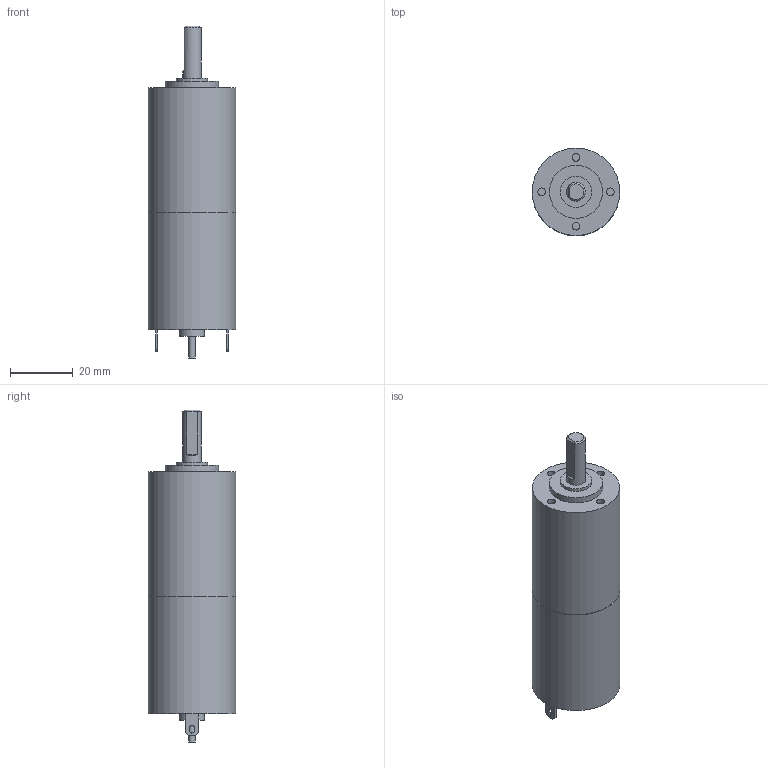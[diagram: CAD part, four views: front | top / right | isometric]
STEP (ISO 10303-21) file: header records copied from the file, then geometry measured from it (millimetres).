
FILE_DESCRIPTION(/* description */ ('Alibre Inc.'),/* implementation_level */ '2;1');
FILE_NAME(/* name */ 'export0',/* time_stamp */ '2013-08-07T13:52:45-06:00',/* author */ (''),/* organization */ (''),/* preprocessor_version */ 'ST-DEVELOPER v14',/* originating_system */ 'Alibre',/* authorisation */ '');
FILE_SCHEMA (('ALIBRE_SCHEMA','CONFIG_CONTROL_DESIGN'));
Length unit declared in the file: centimetre
Products named in the file (1): ID_1
Bounding box: 28 x 28 x 106.2 mm (x, y, z)
Volume: 48743.2 mm3; surface area: 8900.4 mm2
Topology: 1 solids, 1 shells, 50 faces, 108 edges, 71 vertices
Faces by surface type: plane 32, cylinder 15, revolution 2, cone 1
Full cylindrical faces by diameter (mm): 2 x1, 2.459 x4, 6 x1, 8 x1, 10 x1, 17 x1, 28 x2
Entity records: 2845 total; most frequent: CARTESIAN_POINT 380, DIRECTION 241, ORIENTED_EDGE 188, PERSISTANTTOPOLOGYATTRIBUTE 133, AXIS2_PLACEMENT_3D 103, CONSTRAINTPAIRUV 102, VECTOR 96, EDGE_CURVE 94
